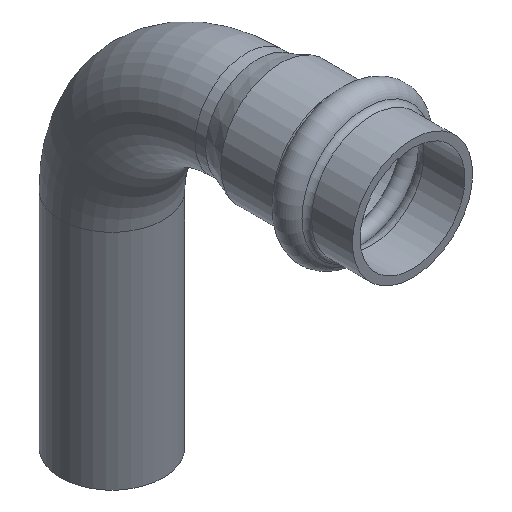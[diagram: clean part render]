
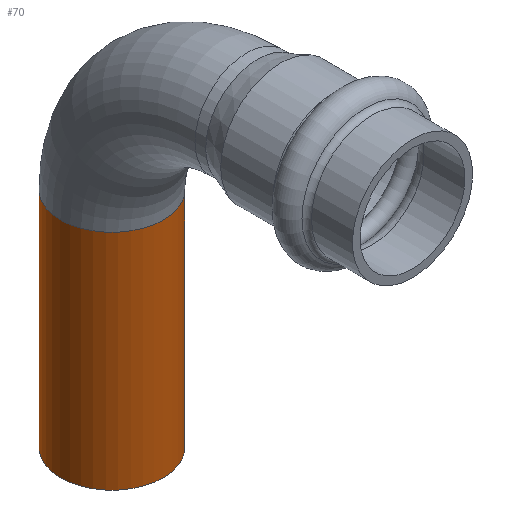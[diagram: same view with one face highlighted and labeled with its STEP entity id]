
A CAD part, isometric view. The second image highlights one B-rep face of the part: STEP entity #70.
In plain terms, the highlighted cylindrical face has radius 9 mm (diameter 18 mm), a full revolution.
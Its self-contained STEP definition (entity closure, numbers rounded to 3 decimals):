
#70=ADVANCED_FACE('',(#219,#221),#223,.T.);
#219=FACE_OUTER_BOUND('',#220,.T.);
#220=EDGE_LOOP('',(#295));
#221=FACE_OUTER_BOUND('',#222,.T.);
#222=EDGE_LOOP('',(#296));
#223=CYLINDRICAL_SURFACE('',#224,9.);
#224=AXIS2_PLACEMENT_3D('',#225,#226,#227);
#225=CARTESIAN_POINT('',(0.,52.5,-23.5));
#226=DIRECTION('',(0.,0.,-1.));
#227=DIRECTION('',(-1.,0.,0.));
#295=ORIENTED_EDGE('',*,*,#343,.T.);
#296=ORIENTED_EDGE('',*,*,#341,.F.);
#341=EDGE_CURVE('',#391,#391,#392,.T.);
#343=EDGE_CURVE('',#395,#395,#396,.T.);
#391=VERTEX_POINT('',#497);
#392=CIRCLE('',#498,9.);
#395=VERTEX_POINT('',#507);
#396=CIRCLE('',#508,9.);
#497=CARTESIAN_POINT('',(-9.,52.5,-62.5));
#498=AXIS2_PLACEMENT_3D('',#499,#500,#501);
#499=CARTESIAN_POINT('',(0.,52.5,-62.5));
#500=DIRECTION('',(0.,0.,-1.));
#501=DIRECTION('',(-1.,0.,0.));
#507=CARTESIAN_POINT('',(-9.,52.5,-23.5));
#508=AXIS2_PLACEMENT_3D('',#509,#510,#511);
#509=CARTESIAN_POINT('',(0.,52.5,-23.5));
#510=DIRECTION('',(0.,0.,-1.));
#511=DIRECTION('',(-1.,0.,0.));
